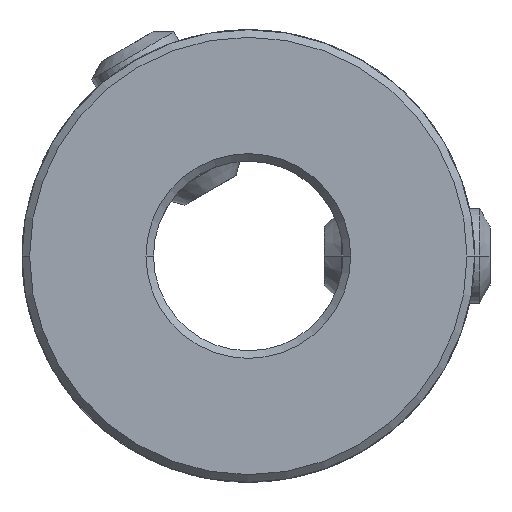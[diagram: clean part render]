
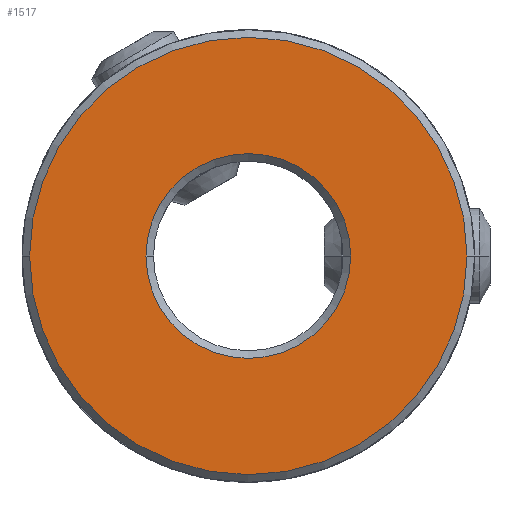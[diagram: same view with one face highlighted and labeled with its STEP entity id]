
A CAD part, front view. The second image highlights one B-rep face of the part: STEP entity #1517.
In plain terms, the highlighted planar face has unit normal (0, -1, 0).
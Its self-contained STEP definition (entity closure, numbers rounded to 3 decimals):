
#2=CARTESIAN_POINT('',(0.,-10.,0.));
#3=DIRECTION('',(0.,-1.,0.));
#4=DIRECTION('',(1.,0.,0.));
#5=AXIS2_PLACEMENT_3D('',#2,#3,#4);
#7=CARTESIAN_POINT('',(0.,-10.,0.));
#8=DIRECTION('',(0.,-1.,0.));
#9=DIRECTION('',(-1.,0.,0.));
#10=AXIS2_PLACEMENT_3D('',#7,#8,#9);
#12=CARTESIAN_POINT('',(0.,-10.,0.));
#13=DIRECTION('',(0.,1.,0.));
#14=DIRECTION('',(1.,0.,0.));
#15=AXIS2_PLACEMENT_3D('',#12,#13,#14);
#17=CARTESIAN_POINT('',(0.,-10.,0.));
#18=DIRECTION('',(0.,1.,0.));
#19=DIRECTION('',(-1.,0.,0.));
#20=AXIS2_PLACEMENT_3D('',#17,#18,#19);
#1378=CARTESIAN_POINT('',(4.32,-10.,0.));
#1379=CARTESIAN_POINT('',(-4.32,-10.,0.));
#1380=VERTEX_POINT('',#1378);
#1381=VERTEX_POINT('',#1379);
#1394=CARTESIAN_POINT('',(9.23,-10.,0.));
#1395=CARTESIAN_POINT('',(-9.23,-10.,0.));
#1396=VERTEX_POINT('',#1394);
#1397=VERTEX_POINT('',#1395);
#1500=CARTESIAN_POINT('',(0.,-10.,0.));
#1501=DIRECTION('',(0.,1.,0.));
#1502=DIRECTION('',(1.,0.,0.));
#1503=AXIS2_PLACEMENT_3D('',#1500,#1501,#1502);
#1504=PLANE('',#1503);
#1506=ORIENTED_EDGE('',*,*,#1505,.F.);
#1508=ORIENTED_EDGE('',*,*,#1507,.F.);
#1509=EDGE_LOOP('',(#1506,#1508));
#1510=FACE_OUTER_BOUND('',#1509,.F.);
#1512=ORIENTED_EDGE('',*,*,#1511,.F.);
#1514=ORIENTED_EDGE('',*,*,#1513,.F.);
#1515=EDGE_LOOP('',(#1512,#1514));
#1516=FACE_BOUND('',#1515,.F.);
#1517=ADVANCED_FACE('',(#1510,#1516),#1504,.F.);
#6=CIRCLE('',#5,9.23);
#11=CIRCLE('',#10,9.23);
#16=CIRCLE('',#15,4.32);
#21=CIRCLE('',#20,4.32);
#1505=EDGE_CURVE('',#1396,#1397,#6,.T.);
#1507=EDGE_CURVE('',#1397,#1396,#11,.T.);
#1511=EDGE_CURVE('',#1380,#1381,#16,.T.);
#1513=EDGE_CURVE('',#1381,#1380,#21,.T.);
